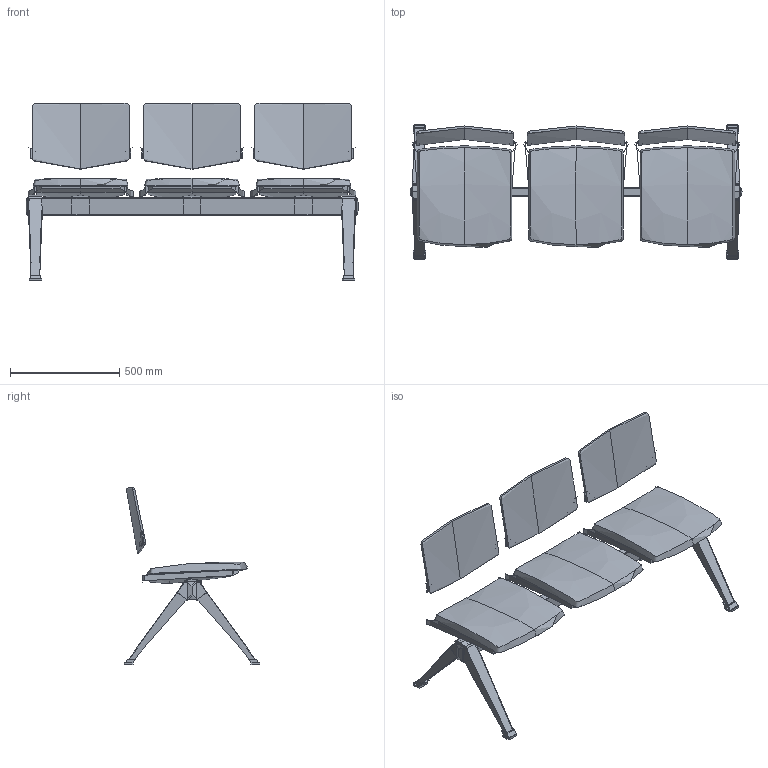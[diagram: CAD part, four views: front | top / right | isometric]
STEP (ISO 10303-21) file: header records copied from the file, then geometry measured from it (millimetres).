
FILE_DESCRIPTION(/* description */ (''),/* implementation_level */ '2;1');
FILE_NAME(/* name */ 'Seance 099-V3',/* time_stamp */ '2020-03-26T14:35:34+01:00',/* author */ (''),/* organization */ (''),/* preprocessor_version */ 'ST-DEVELOPER v16.5',/* originating_system */ '',/* authorisation */ '');
FILE_SCHEMA (('AUTOMOTIVE_DESIGN'));
Length unit declared in the file: millimetre
Products named in the file (1): Document
Bounding box: 1520 x 620 x 812.99 mm (x, y, z)
Volume: 29192962.1 mm3; surface area: 4160196 mm2
Topology: 50 solids, 58 shells, 528 faces, 1219 edges, 781 vertices
Faces by surface type: bspline 282, plane 246
Entity records: 19127 total; most frequent: CARTESIAN_POINT 11139, ORIENTED_EDGE 2300, EDGE_CURVE 1194, B_SPLINE_CURVE_WITH_KNOTS 947, VERTEX_POINT 769, ADVANCED_FACE 528, FACE_OUTER_BOUND 528, EDGE_LOOP 528
